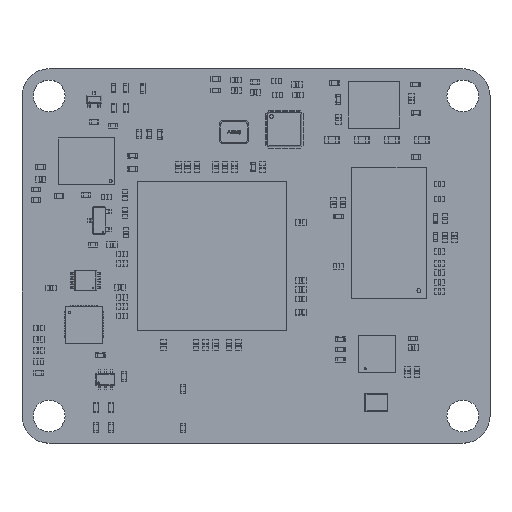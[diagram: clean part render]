
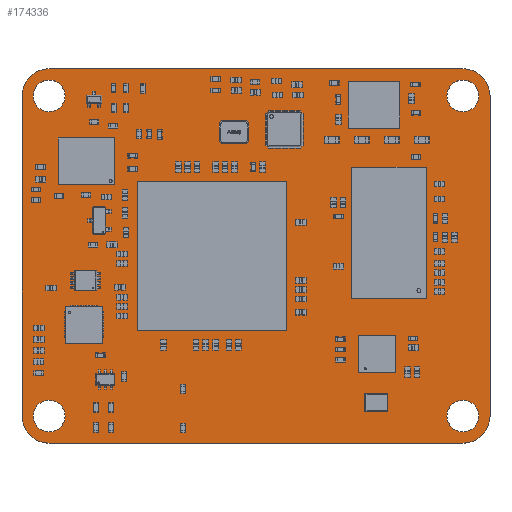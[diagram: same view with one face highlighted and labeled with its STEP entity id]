
A CAD part, top view. The second image highlights one B-rep face of the part: STEP entity #174336.
In plain terms, the highlighted planar face has unit normal (0, 0, 1).
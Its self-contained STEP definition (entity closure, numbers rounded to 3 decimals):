
#174143 = VERTEX_POINT('',#174144);
#174144 = CARTESIAN_POINT('',(22.1,20.,1.51));
#174150 = EDGE_CURVE('',#174143,#174151,#174153,.T.);
#174151 = VERTEX_POINT('',#174152);
#174152 = CARTESIAN_POINT('',(25.,17.1,1.51));
#174153 = CIRCLE('',#174154,2.9);
#174154 = AXIS2_PLACEMENT_3D('',#174155,#174156,#174157);
#174155 = CARTESIAN_POINT('',(22.1,17.1,1.51));
#174156 = DIRECTION('',(0.,0.,-1.));
#174157 = DIRECTION('',(0.,1.,0.));
#174185 = VERTEX_POINT('',#174186);
#174186 = CARTESIAN_POINT('',(-22.1,20.,1.51));
#174192 = EDGE_CURVE('',#174185,#174143,#174193,.T.);
#174193 = LINE('',#174194,#174195);
#174194 = CARTESIAN_POINT('',(-22.1,20.,1.51));
#174195 = VECTOR('',#174196,1.);
#174196 = DIRECTION('',(1.,0.,0.));
#174214 = EDGE_CURVE('',#174151,#174215,#174217,.T.);
#174215 = VERTEX_POINT('',#174216);
#174216 = CARTESIAN_POINT('',(25.,-17.1,1.51));
#174217 = LINE('',#174218,#174219);
#174218 = CARTESIAN_POINT('',(25.,17.1,1.51));
#174219 = VECTOR('',#174220,1.);
#174220 = DIRECTION('',(0.,-1.,0.));
#174336 = ADVANCED_FACE('',(#174337,#174383,#174394,#174405,#174416),
  #174427,.T.);
#174337 = FACE_BOUND('',#174338,.T.);
#174338 = EDGE_LOOP('',(#174339,#174340,#174341,#174350,#174358,#174367,
    #174375,#174382));
#174339 = ORIENTED_EDGE('',*,*,#174150,.F.);
#174340 = ORIENTED_EDGE('',*,*,#174192,.F.);
#174341 = ORIENTED_EDGE('',*,*,#174342,.F.);
#174342 = EDGE_CURVE('',#174343,#174185,#174345,.T.);
#174343 = VERTEX_POINT('',#174344);
#174344 = CARTESIAN_POINT('',(-25.,17.1,1.51));
#174345 = CIRCLE('',#174346,2.9);
#174346 = AXIS2_PLACEMENT_3D('',#174347,#174348,#174349);
#174347 = CARTESIAN_POINT('',(-22.1,17.1,1.51));
#174348 = DIRECTION('',(0.,0.,-1.));
#174349 = DIRECTION('',(-1.,0.,-0.));
#174350 = ORIENTED_EDGE('',*,*,#174351,.F.);
#174351 = EDGE_CURVE('',#174352,#174343,#174354,.T.);
#174352 = VERTEX_POINT('',#174353);
#174353 = CARTESIAN_POINT('',(-25.,-17.1,1.51));
#174354 = LINE('',#174355,#174356);
#174355 = CARTESIAN_POINT('',(-25.,-17.1,1.51));
#174356 = VECTOR('',#174357,1.);
#174357 = DIRECTION('',(0.,1.,0.));
#174358 = ORIENTED_EDGE('',*,*,#174359,.F.);
#174359 = EDGE_CURVE('',#174360,#174352,#174362,.T.);
#174360 = VERTEX_POINT('',#174361);
#174361 = CARTESIAN_POINT('',(-22.1,-20.,1.51));
#174362 = CIRCLE('',#174363,2.9);
#174363 = AXIS2_PLACEMENT_3D('',#174364,#174365,#174366);
#174364 = CARTESIAN_POINT('',(-22.1,-17.1,1.51));
#174365 = DIRECTION('',(0.,0.,-1.));
#174366 = DIRECTION('',(0.,-1.,0.));
#174367 = ORIENTED_EDGE('',*,*,#174368,.F.);
#174368 = EDGE_CURVE('',#174369,#174360,#174371,.T.);
#174369 = VERTEX_POINT('',#174370);
#174370 = CARTESIAN_POINT('',(22.1,-20.,1.51));
#174371 = LINE('',#174372,#174373);
#174372 = CARTESIAN_POINT('',(22.1,-20.,1.51));
#174373 = VECTOR('',#174374,1.);
#174374 = DIRECTION('',(-1.,0.,0.));
#174375 = ORIENTED_EDGE('',*,*,#174376,.F.);
#174376 = EDGE_CURVE('',#174215,#174369,#174377,.T.);
#174377 = CIRCLE('',#174378,2.9);
#174378 = AXIS2_PLACEMENT_3D('',#174379,#174380,#174381);
#174379 = CARTESIAN_POINT('',(22.1,-17.1,1.51));
#174380 = DIRECTION('',(0.,0.,-1.));
#174381 = DIRECTION('',(1.,0.,0.));
#174382 = ORIENTED_EDGE('',*,*,#174214,.F.);
#174383 = FACE_BOUND('',#174384,.T.);
#174384 = EDGE_LOOP('',(#174385));
#174385 = ORIENTED_EDGE('',*,*,#174386,.T.);
#174386 = EDGE_CURVE('',#174387,#174387,#174389,.T.);
#174387 = VERTEX_POINT('',#174388);
#174388 = CARTESIAN_POINT('',(-22.1,-18.8,1.51));
#174389 = CIRCLE('',#174390,1.7);
#174390 = AXIS2_PLACEMENT_3D('',#174391,#174392,#174393);
#174391 = CARTESIAN_POINT('',(-22.1,-17.1,1.51));
#174392 = DIRECTION('',(-0.,0.,-1.));
#174393 = DIRECTION('',(-0.,-1.,0.));
#174394 = FACE_BOUND('',#174395,.T.);
#174395 = EDGE_LOOP('',(#174396));
#174396 = ORIENTED_EDGE('',*,*,#174397,.T.);
#174397 = EDGE_CURVE('',#174398,#174398,#174400,.T.);
#174398 = VERTEX_POINT('',#174399);
#174399 = CARTESIAN_POINT('',(22.1,-18.8,1.51));
#174400 = CIRCLE('',#174401,1.7);
#174401 = AXIS2_PLACEMENT_3D('',#174402,#174403,#174404);
#174402 = CARTESIAN_POINT('',(22.1,-17.1,1.51));
#174403 = DIRECTION('',(-0.,0.,-1.));
#174404 = DIRECTION('',(-0.,-1.,0.));
#174405 = FACE_BOUND('',#174406,.T.);
#174406 = EDGE_LOOP('',(#174407));
#174407 = ORIENTED_EDGE('',*,*,#174408,.T.);
#174408 = EDGE_CURVE('',#174409,#174409,#174411,.T.);
#174409 = VERTEX_POINT('',#174410);
#174410 = CARTESIAN_POINT('',(-22.1,15.4,1.51));
#174411 = CIRCLE('',#174412,1.7);
#174412 = AXIS2_PLACEMENT_3D('',#174413,#174414,#174415);
#174413 = CARTESIAN_POINT('',(-22.1,17.1,1.51));
#174414 = DIRECTION('',(-0.,0.,-1.));
#174415 = DIRECTION('',(-0.,-1.,0.));
#174416 = FACE_BOUND('',#174417,.T.);
#174417 = EDGE_LOOP('',(#174418));
#174418 = ORIENTED_EDGE('',*,*,#174419,.T.);
#174419 = EDGE_CURVE('',#174420,#174420,#174422,.T.);
#174420 = VERTEX_POINT('',#174421);
#174421 = CARTESIAN_POINT('',(22.1,15.4,1.51));
#174422 = CIRCLE('',#174423,1.7);
#174423 = AXIS2_PLACEMENT_3D('',#174424,#174425,#174426);
#174424 = CARTESIAN_POINT('',(22.1,17.1,1.51));
#174425 = DIRECTION('',(-0.,0.,-1.));
#174426 = DIRECTION('',(-0.,-1.,0.));
#174427 = PLANE('',#174428);
#174428 = AXIS2_PLACEMENT_3D('',#174429,#174430,#174431);
#174429 = CARTESIAN_POINT('',(0.,0.,1.51));
#174430 = DIRECTION('',(0.,0.,1.));
#174431 = DIRECTION('',(1.,0.,-0.));
